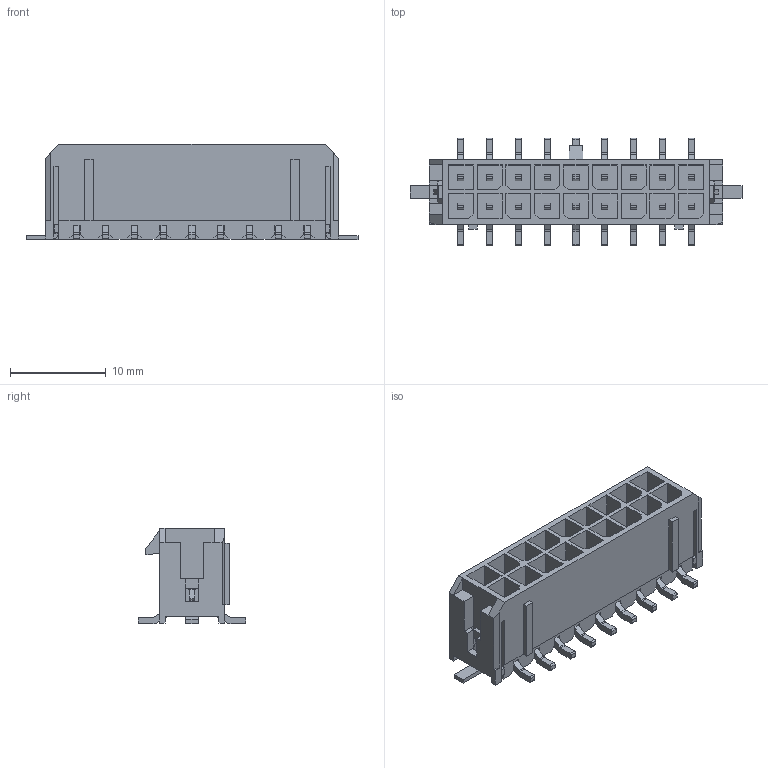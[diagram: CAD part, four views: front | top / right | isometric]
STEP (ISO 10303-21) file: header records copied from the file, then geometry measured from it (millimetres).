
FILE_DESCRIPTION(('CATIA V5 STEP Exchange'),'2;1');
FILE_NAME('F:\黄富鸿\条形连接器\3.00系列\02--MX3.0（双排）\2xNALT\HC-MX3.0-2x9ALT-05（3.00 双排 立贴-HCTL）.stp','2025-11-28T01:32:24+00:00',('none'),('none'),'CATIA Version 5 Release 20 GA (IN-10)','CATIA V5 STEP AP203','none');
FILE_SCHEMA(('CONFIG_CONTROL_DESIGN'));
Length unit declared in the file: millimetre
Products named in the file (1): Part2
Bounding box: 34.6 x 11.2 x 10 mm (x, y, z)
Volume: 1031.5 mm3; surface area: 3405.1 mm2
Topology: 1 solids, 1 shells, 1166 faces, 3445 edges, 2220 vertices
Faces by surface type: plane 962, cylinder 204
Entity records: 33816 total; most frequent: ORIENTED_EDGE 6890, CARTESIAN_POINT 6057, DIRECTION 4047, EDGE_CURVE 3445, VECTOR 3037, LINE 3037, VERTEX_POINT 2220, EDGE_LOOP 1225
